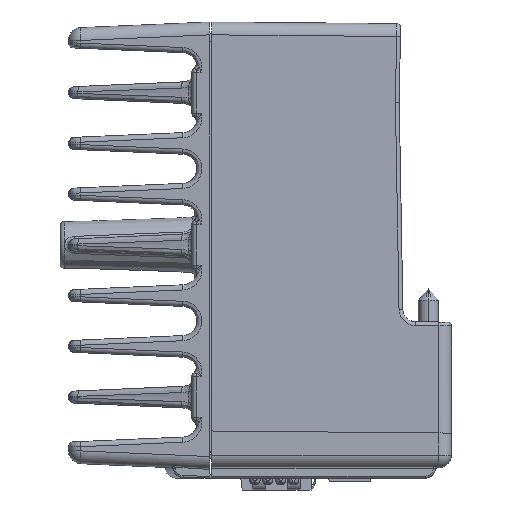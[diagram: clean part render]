
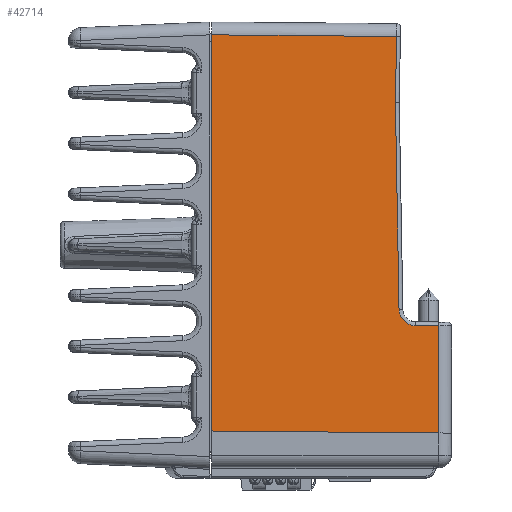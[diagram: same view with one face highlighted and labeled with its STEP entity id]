
A CAD part, left-side view. The second image highlights one B-rep face of the part: STEP entity #42714.
In plain terms, the highlighted planar face has unit normal (-1, -0.009, 0).
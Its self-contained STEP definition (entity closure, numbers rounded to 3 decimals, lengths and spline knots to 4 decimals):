
#4101=CARTESIAN_POINT('',(-1.7191,-0.3079,
-2.3657));
#4149=DIRECTION('',(0.,0.,1.));
#4150=VECTOR('',#4149,0.8334);
#4151=CARTESIAN_POINT('',(-1.7191,-0.3079,
-3.1991));
#4152=LINE('',#4151,#4150);
#4207=DIRECTION('',(0.009,-1.,-0.009));
#4208=VECTOR('',#4207,1.768);
#4209=CARTESIAN_POINT('',(-1.7345,1.46,-3.1837));
#4210=LINE('',#4209,#4208);
#4211=DIRECTION('',(0.,0.,1.));
#4212=VECTOR('',#4211,3.0837);
#4213=CARTESIAN_POINT('',(-1.7345,1.46,-3.1837));
#4214=LINE('',#4213,#4212);
#4215=DIRECTION('',(-0.009,1.,0.009));
#4216=VECTOR('',#4215,0.1807);
#4217=CARTESIAN_POINT('',(-1.7191,-0.3079,
-2.3657));
#4218=LINE('',#4217,#4216);
#4228=CARTESIAN_POINT('',(-1.7206,-0.1272,
-2.3641));
#4229=CARTESIAN_POINT('',(-1.7207,-0.1244,
-2.3641));
#4230=CARTESIAN_POINT('',(-1.7207,-0.1189,
-2.3639));
#4231=CARTESIAN_POINT('',(-1.7208,-0.1106,
-2.363));
#4232=CARTESIAN_POINT('',(-1.7209,-0.1023,
-2.3616));
#4233=CARTESIAN_POINT('',(-1.7209,-0.0942,
-2.3596));
#4234=CARTESIAN_POINT('',(-1.721,-0.0861,
-2.3572));
#4235=CARTESIAN_POINT('',(-1.7211,-0.0783,
-2.3542));
#4236=CARTESIAN_POINT('',(-1.7211,-0.0707,
-2.3507));
#4237=CARTESIAN_POINT('',(-1.7212,-0.0633,
-2.3468));
#4238=CARTESIAN_POINT('',(-1.7213,-0.0562,
-2.3424));
#4239=CARTESIAN_POINT('',(-1.7213,-0.0494,
-2.3375));
#4240=CARTESIAN_POINT('',(-1.7214,-0.0429,
-2.3322));
#4241=CARTESIAN_POINT('',(-1.7214,-0.0367,
-2.3265));
#4242=CARTESIAN_POINT('',(-1.7215,-0.031,
-2.3204));
#4243=CARTESIAN_POINT('',(-1.7215,-0.0256,
-2.314));
#4244=CARTESIAN_POINT('',(-1.7216,-0.0207,
-2.3072));
#4245=CARTESIAN_POINT('',(-1.7216,-0.0162,
-2.3001));
#4246=CARTESIAN_POINT('',(-1.7217,-0.0122,
-2.2928));
#4247=CARTESIAN_POINT('',(-1.7217,-0.0087,
-2.2852));
#4248=CARTESIAN_POINT('',(-1.7217,-0.0057,
-2.2774));
#4249=CARTESIAN_POINT('',(-1.7217,-0.0031,
-2.2694));
#4250=CARTESIAN_POINT('',(-1.7217,-0.0011,
-2.2613));
#4251=CARTESIAN_POINT('',(-1.7218,0.0004,
-2.253));
#4252=CARTESIAN_POINT('',(-1.7218,0.0013,
-2.2447));
#4253=CARTESIAN_POINT('',(-1.7218,0.0016,
-2.2392));
#4254=CARTESIAN_POINT('',(-1.7218,0.0017,
-2.2364));
#4297=DIRECTION('',(0.,0.017,1.));
#4298=VECTOR('',#4297,1.6096);
#4299=CARTESIAN_POINT('',(-1.7218,0.0017,
-2.2364));
#4300=LINE('',#4299,#4298);
#4451=DIRECTION('',(0.,-0.017,1.));
#4452=VECTOR('',#4451,0.5145);
#4453=CARTESIAN_POINT('',(-1.722,0.0297,-0.627));
#4454=LINE('',#4453,#4452);
#4525=DIRECTION('',(-0.009,1.,0.009));
#4526=VECTOR('',#4525,1.4393);
#4527=CARTESIAN_POINT('',(-1.7219,0.0208,
-0.1126));
#4528=LINE('',#4527,#4526);
#4529=CARTESIAN_POINT('',(-1.7345,1.46,-0.1));
#33103=VERTEX_POINT('',#4529);
#33131=CARTESIAN_POINT('',(-1.7345,1.46,-3.1837));
#33132=VERTEX_POINT('',#33131);
#33153=CARTESIAN_POINT('',(-1.7191,-0.3079,
-3.1991));
#33154=VERTEX_POINT('',#33153);
#33660=VERTEX_POINT('',#4101);
#33663=CARTESIAN_POINT('',(-1.7206,-0.1272,
-2.3641));
#33664=VERTEX_POINT('',#33663);
#33667=VERTEX_POINT('',#4254);
#33671=CARTESIAN_POINT('',(-1.722,0.0297,-0.627));
#33672=VERTEX_POINT('',#33671);
#33673=CARTESIAN_POINT('',(-1.7219,0.0208,
-0.1126));
#33674=VERTEX_POINT('',#33673);
#42694=CARTESIAN_POINT('',(-1.7345,1.46,0.0866));
#42695=DIRECTION('',(1.,0.009,0.));
#42696=DIRECTION('',(0.,0.,-1.));
#42697=AXIS2_PLACEMENT_3D('',#42694,#42695,#42696);
#42698=PLANE('',#42697);
#42700=ORIENTED_EDGE('',*,*,#42699,.F.);
#42701=ORIENTED_EDGE('',*,*,#42620,.F.);
#42702=ORIENTED_EDGE('',*,*,#42634,.F.);
#42703=ORIENTED_EDGE('',*,*,#41340,.T.);
#42705=ORIENTED_EDGE('',*,*,#42704,.F.);
#42707=ORIENTED_EDGE('',*,*,#42706,.F.);
#42709=ORIENTED_EDGE('',*,*,#42708,.F.);
#42711=ORIENTED_EDGE('',*,*,#42710,.F.);
#42712=EDGE_LOOP('',(#42700,#42701,#42702,#42703,#42705,#42707,#42709,#42711));
#42713=FACE_OUTER_BOUND('',#42712,.F.);
#42714=ADVANCED_FACE('',(#42713),#42698,.F.);
#4255=B_SPLINE_CURVE_WITH_KNOTS('',3,(#4228,#4229,#4230,#4231,#4232,#4233,#4234,
#4235,#4236,#4237,#4238,#4239,#4240,#4241,#4242,#4243,#4244,#4245,#4246,#4247,
#4248,#4249,#4250,#4251,#4252,#4253,#4254),.UNSPECIFIED.,.F.,.F.,(4,1,1,1,1,1,1,
1,1,1,1,1,1,1,1,1,1,1,1,1,1,1,1,1,4),(0.,0.0417,0.0833,
0.125,0.1667,0.2083,0.25,0.2917,
0.3333,0.375,0.4167,0.4583,0.5,
0.5417,0.5833,0.625,0.6667,0.7083,
0.75,0.7917,0.8333,0.875,0.9167,
0.9583,1.),.UNSPECIFIED.);
#41340=EDGE_CURVE('',#33132,#33103,#4214,.T.);
#42620=EDGE_CURVE('',#33154,#33660,#4152,.T.);
#42634=EDGE_CURVE('',#33132,#33154,#4210,.T.);
#42699=EDGE_CURVE('',#33660,#33664,#4218,.T.);
#42704=EDGE_CURVE('',#33674,#33103,#4528,.T.);
#42706=EDGE_CURVE('',#33672,#33674,#4454,.T.);
#42708=EDGE_CURVE('',#33667,#33672,#4300,.T.);
#42710=EDGE_CURVE('',#33664,#33667,#4255,.T.);
